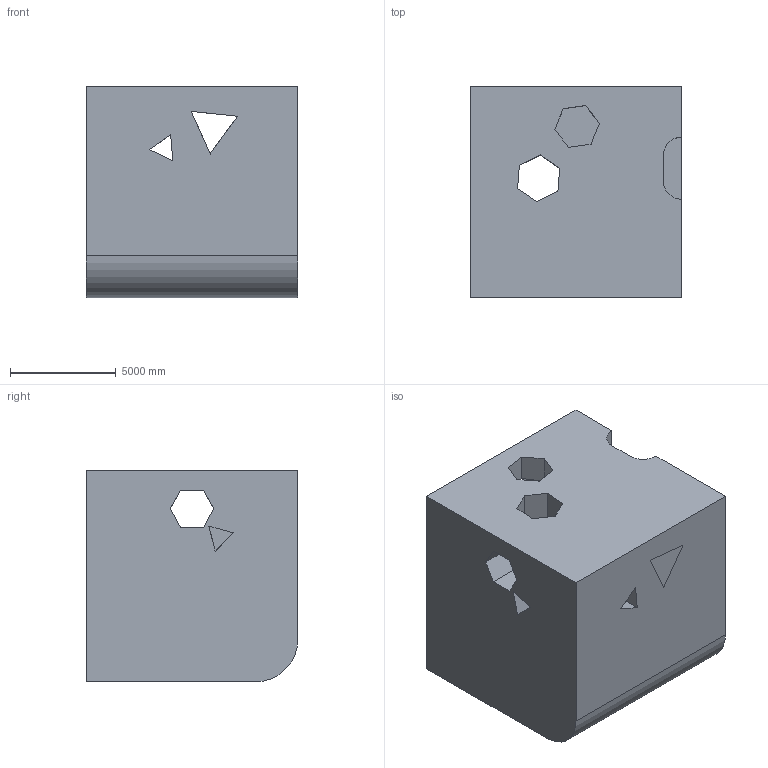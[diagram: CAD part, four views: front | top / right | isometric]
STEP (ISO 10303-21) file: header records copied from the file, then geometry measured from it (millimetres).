
FILE_DESCRIPTION (( 'STEP AP203' ), '1' );
FILE_NAME ('855.STEP', '2022-07-29T13:44:41', ( 'user' ), ( '' ), 'SwSTEP 2.0', 'SolidWorks 2021', '' );
FILE_SCHEMA (( 'CONFIG_CONTROL_DESIGN' ));
Length unit declared in the file: centimetre
Products named in the file (1): 855
Bounding box: 10000 x 10000 x 10000 mm (x, y, z)
Volume: 877582949148.5 mm3; surface area: 815846170.3 mm2
Topology: 1 solids, 1 shells, 63 faces, 216 edges, 144 vertices
Faces by surface type: plane 57, cylinder 6
Entity records: 2419 total; most frequent: ORIENTED_EDGE 432, CARTESIAN_POINT 424, DIRECTION 356, EDGE_CURVE 216, VECTOR 204, LINE 204, VERTEX_POINT 144, AXIS2_PLACEMENT_3D 76
